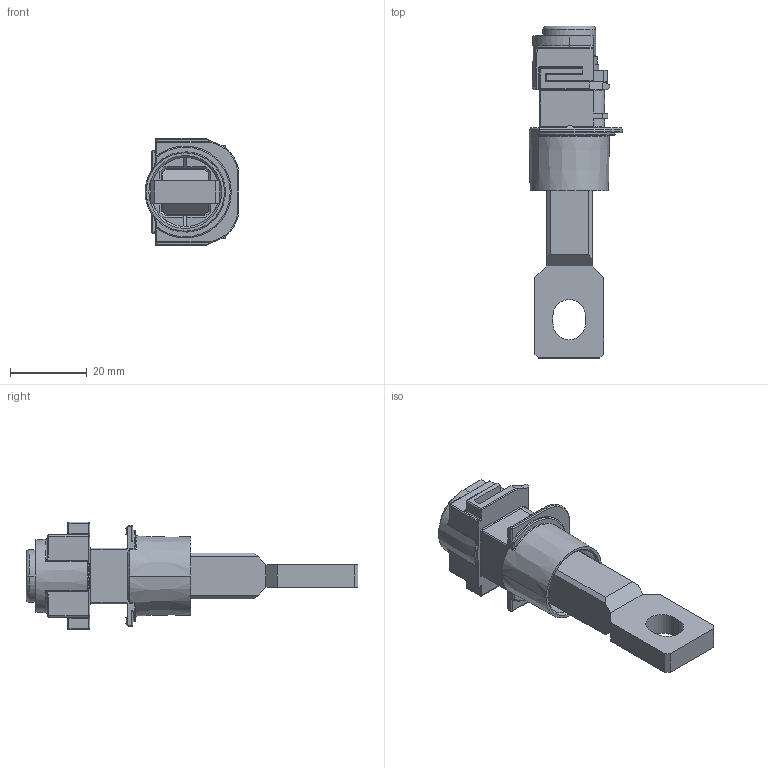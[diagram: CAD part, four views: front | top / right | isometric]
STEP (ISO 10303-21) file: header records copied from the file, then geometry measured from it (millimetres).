
FILE_DESCRIPTION((''),'2;1');
FILE_NAME('U2_21_5_S_REAR_CONDUCTOR_ASSY_ASM','2018-06-04T',('HHI'),(''),'PRO/ENGINEER BY PARAMETRIC TECHNOLOGY CORPORATION, 2012453','PRO/ENGINEER BY PARAMETRIC TECHNOLOGY CORPORATION, 2012453','');
FILE_SCHEMA(('CONFIG_CONTROL_DESIGN'));
Length unit declared in the file: millimetre
Products named in the file (8): UP2_21_5_REAR_CONDUCTOR_CASE; U2_REAR_CONDUCTOR_PLATE; U2_SHORT_REAR_CONDUCTOR; M8_L20_HEX_SOCKET_BOLT; D8_ASSY2_SPRING_WASHER; D8_SMALL_PLAIN_WASHER; M8_L20_P_SW_HEX_SOCKET_BOLT_ASM; U2_21_5_S_REAR_CONDUCTOR_ASSY_ASM
Assembly tree (7 placements, depth 3):
  U2_21_5_S_REAR_CONDUCTOR_ASSY_ASM
    UP2_21_5_REAR_CONDUCTOR_CASE
    U2_REAR_CONDUCTOR_PLATE
    U2_SHORT_REAR_CONDUCTOR
    M8_L20_P_SW_HEX_SOCKET_BOLT_ASM
      M8_L20_HEX_SOCKET_BOLT
      D8_ASSY2_SPRING_WASHER
      D8_SMALL_PLAIN_WASHER
Bounding box: 24.49 x 86.6 x 28 mm (x, y, z)
Volume: 15935.7 mm3; surface area: 12997 mm2
Topology: 6 solids, 6 shells, 343 faces, 854 edges, 523 vertices
Faces by surface type: plane 160, cylinder 102, torus 23, cone 22, sphere 20, bspline 16
Entity records: 10920 total; most frequent: CARTESIAN_POINT 2619, DIRECTION 1721, ORIENTED_EDGE 1700, EDGE_CURVE 850, AXIS2_PLACEMENT_3D 606, VERTEX_POINT 523, VECTOR 509, LINE 509
